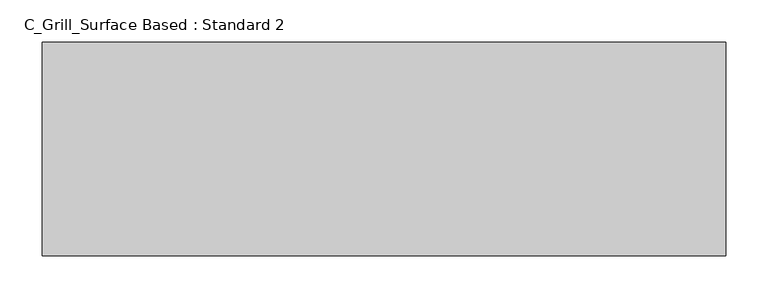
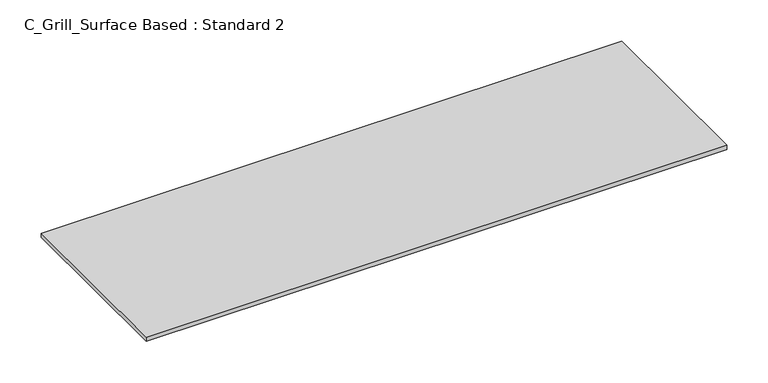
"""IFC4 building model written with IfcOpenShell, lengths in millimetres: air terminal geometry, C_Grill_Surface Based : Standard 2."""

from ifc_helpers import new_model, si_unit, origin, origin_with_axes, place, context, project, spatial, polyline, outline, extrude, source, transform, mapped, element, save


def c_grill_surface_based_standard_2_68979a2f(model_context):
    return source(origin(), model_context, "Body", "SweptSolid", [
        extrude(outline(polyline([(406.4, 127.0), (406.4, -127.0), (-406.4, -127.0), (-406.4, 127.0), (406.4, 127.0)])), origin_with_axes(), (0.0, 0.0, 1.0), 6.35),
    ])


if __name__ == "__main__":
    model = new_model("IFC4")
    model_context = context("Model", 3, world=origin())
    ifc_project = project(units=[si_unit("LENGTHUNIT", "METRE", prefix="MILLI")], contexts=[model_context])
    site = spatial("IfcSite", under=ifc_project)
    building = spatial("IfcBuilding", under=site)
    placement = place(None, origin())
    c_grill_surface_based_standard_2_shape = c_grill_surface_based_standard_2_68979a2f(model_context)
    element("IfcAirTerminal", 1, ObjectType="C_Grill_Surface Based : Standard 2", at=placement, inside=building, context=model_context, shape_type="MappedRepresentation", body=[
        mapped(c_grill_surface_based_standard_2_shape, transform((0.0, 0.0, 0.0), x_axis=(1.0, 0.0, 0.0), y_axis=(0.0, 1.0, 0.0), z_axis=(0.0, 0.0, 1.0))),
    ])
    save(model, "model.ifc")
